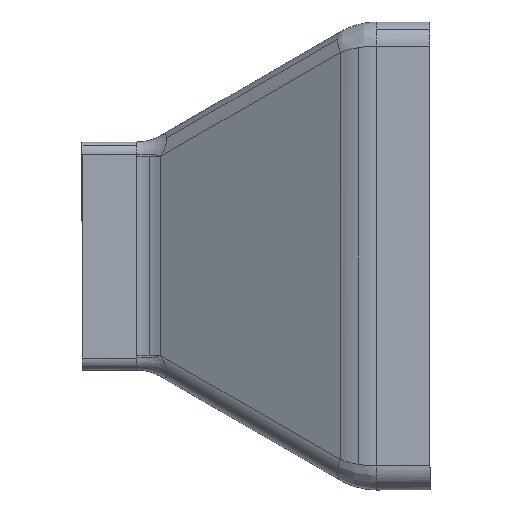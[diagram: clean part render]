
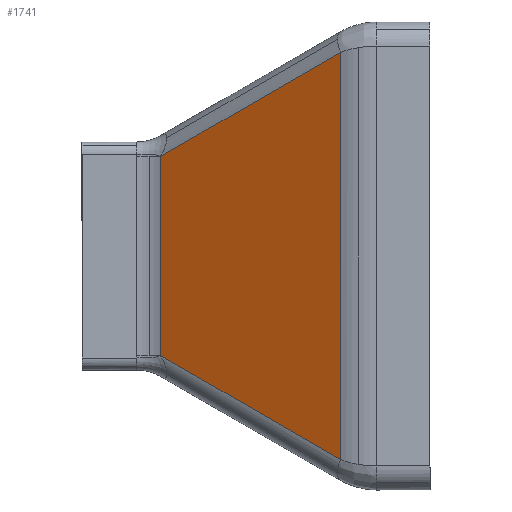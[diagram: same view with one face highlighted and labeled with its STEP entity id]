
A CAD part, left-side view. The second image highlights one B-rep face of the part: STEP entity #1741.
In plain terms, the highlighted planar face has unit normal (-0.866, 0.5, 0).
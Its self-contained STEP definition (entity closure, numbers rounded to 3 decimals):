
#203 = EDGE_CURVE ( 'NONE', #1250, #2381, #1241, .T. ) ;
#330 = CARTESIAN_POINT ( 'NONE',  ( -48.481, 37.229, -88.821 ) ) ;
#599 = VECTOR ( 'NONE', #2630, 1000. ) ;
#677 = EDGE_CURVE ( 'NONE', #4285, #1445, #1735, .T. ) ;
#852 = DIRECTION ( 'NONE',  ( 0., 0., -1. ) ) ;
#880 = ORIENTED_EDGE ( 'NONE', *, *, #203, .F. ) ;
#906 = PLANE ( 'NONE',  #3144 ) ;
#1074 = CARTESIAN_POINT ( 'NONE',  ( -48.481, 37.229, 80.821 ) ) ;
#1241 = LINE ( 'NONE', #1938, #4287 ) ;
#1250 = VERTEX_POINT ( 'NONE', #330 ) ;
#1336 = ORIENTED_EDGE ( 'NONE', *, *, #1924, .F. ) ;
#1414 = CARTESIAN_POINT ( 'NONE',  ( -5.179, 112.229, -2. ) ) ;
#1445 = VERTEX_POINT ( 'NONE', #1074 ) ;
#1489 = EDGE_CURVE ( 'NONE', #1445, #1250, #1627, .T. ) ;
#1627 = LINE ( 'NONE', #4394, #3914 ) ;
#1735 = LINE ( 'NONE', #3716, #4074 ) ;
#1741 = ADVANCED_FACE ( 'NONE', ( #4566 ), #906, .T. ) ;
#1859 = CARTESIAN_POINT ( 'NONE',  ( -5.179, 112.229, -45.519 ) ) ;
#1924 = EDGE_CURVE ( 'NONE', #2381, #4285, #3085, .T. ) ;
#1938 = CARTESIAN_POINT ( 'NONE',  ( -17.238, 91.343, -57.578 ) ) ;
#2123 = CARTESIAN_POINT ( 'NONE',  ( -53.15, 29.143, -4. ) ) ;
#2136 = CARTESIAN_POINT ( 'NONE',  ( -5.179, 112.229, 37.519 ) ) ;
#2381 = VERTEX_POINT ( 'NONE', #1859 ) ;
#2500 = DIRECTION ( 'NONE',  ( -0.447, -0.775, 0.447 ) ) ;
#2630 = DIRECTION ( 'NONE',  ( 0., 0., 1. ) ) ;
#3085 = LINE ( 'NONE', #1414, #599 ) ;
#3144 = AXIS2_PLACEMENT_3D ( 'NONE', #2123, #3313, #4906 ) ;
#3313 = DIRECTION ( 'NONE',  ( -0.866, 0.5, 0. ) ) ;
#3433 = EDGE_LOOP ( 'NONE', ( #1336, #880, #3788, #5158 ) ) ;
#3716 = CARTESIAN_POINT ( 'NONE',  ( -17.238, 91.343, 49.578 ) ) ;
#3788 = ORIENTED_EDGE ( 'NONE', *, *, #1489, .F. ) ;
#3914 = VECTOR ( 'NONE', #852, 1000. ) ;
#4074 = VECTOR ( 'NONE', #2500, 1000. ) ;
#4285 = VERTEX_POINT ( 'NONE', #2136 ) ;
#4287 = VECTOR ( 'NONE', #4405, 1000. ) ;
#4394 = CARTESIAN_POINT ( 'NONE',  ( -48.481, 37.229, -2. ) ) ;
#4405 = DIRECTION ( 'NONE',  ( 0.447, 0.775, 0.447 ) ) ;
#4566 = FACE_OUTER_BOUND ( 'NONE', #3433, .T. ) ;
#4906 = DIRECTION ( 'NONE',  ( 0., 0., 1. ) ) ;
#5158 = ORIENTED_EDGE ( 'NONE', *, *, #677, .F. ) ;
